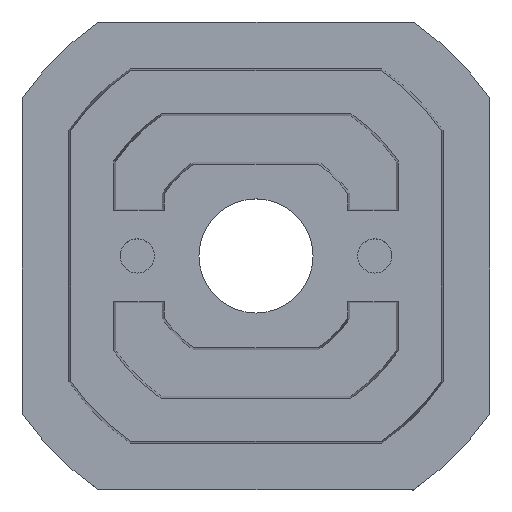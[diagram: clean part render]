
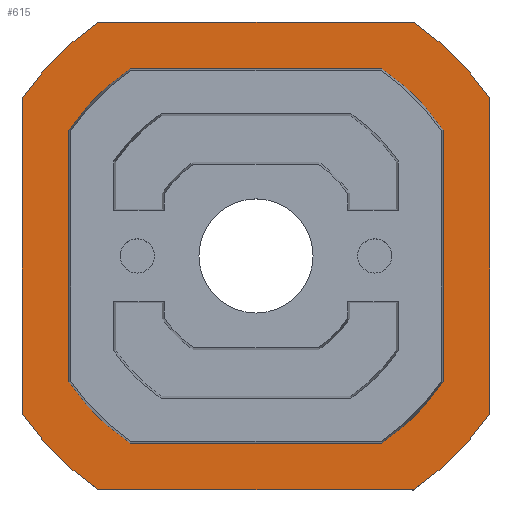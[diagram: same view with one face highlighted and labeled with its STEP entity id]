
A CAD part, top view. The second image highlights one B-rep face of the part: STEP entity #615.
In plain terms, the highlighted planar face has unit normal (0, 0, 1).
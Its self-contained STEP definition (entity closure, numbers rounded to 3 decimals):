
#14 = DIRECTION ( 'NONE',  ( 0., 0., -1. ) ) ;
#15 = LINE ( 'NONE', #1674, #1205 ) ;
#18 = AXIS2_PLACEMENT_3D ( 'NONE', #959, #804, #430 ) ;
#39 = DIRECTION ( 'NONE',  ( 0., 1., 0. ) ) ;
#96 = DIRECTION ( 'NONE',  ( 1., 0., 0. ) ) ;
#117 = LINE ( 'NONE', #417, #1553 ) ;
#156 = AXIS2_PLACEMENT_3D ( 'NONE', #1339, #1011, #2008 ) ;
#175 = CARTESIAN_POINT ( 'NONE',  ( 60.5, 29.5, 10.005 ) ) ;
#183 = EDGE_CURVE ( 'NONE', #1720, #1908, #621, .T. ) ;
#191 = VERTEX_POINT ( 'NONE', #1174 ) ;
#276 = AXIS2_PLACEMENT_3D ( 'NONE', #458, #1959, #96 ) ;
#289 = CARTESIAN_POINT ( 'NONE',  ( 70.749, 22.61, 10.005 ) ) ;
#296 = ORIENTED_EDGE ( 'NONE', *, *, #1250, .T. ) ;
#301 = CIRCLE ( 'NONE', #1815, 9.88 ) ;
#303 = CARTESIAN_POINT ( 'NONE',  ( 60.5, 37.7, 10.005 ) ) ;
#317 = ORIENTED_EDGE ( 'NONE', *, *, #183, .T. ) ;
#324 = VERTEX_POINT ( 'NONE', #1135 ) ;
#332 = LINE ( 'NONE', #1550, #1512 ) ;
#402 = CIRCLE ( 'NONE', #1325, 12.35 ) ;
#417 = CARTESIAN_POINT ( 'NONE',  ( 67.39, 39.749, 10.005 ) ) ;
#430 = DIRECTION ( 'NONE',  ( 1., 0., 0. ) ) ;
#432 = CARTESIAN_POINT ( 'NONE',  ( 60.5, 29.5, 10.005 ) ) ;
#441 = EDGE_CURVE ( 'NONE', #1468, #191, #801, .T. ) ;
#452 = CARTESIAN_POINT ( 'NONE',  ( 54.988, 21.3, 10.005 ) ) ;
#458 = CARTESIAN_POINT ( 'NONE',  ( 60.5, 29.5, 10.005 ) ) ;
#465 = CARTESIAN_POINT ( 'NONE',  ( 60.5, 29.5, 10.005 ) ) ;
#489 = DIRECTION ( 'NONE',  ( 0., 0., -1. ) ) ;
#547 = DIRECTION ( 'NONE',  ( 0., 0., 1. ) ) ;
#548 = CARTESIAN_POINT ( 'NONE',  ( 53.61, 39.749, 10.005 ) ) ;
#550 = VERTEX_POINT ( 'NONE', #1916 ) ;
#556 = VERTEX_POINT ( 'NONE', #1932 ) ;
#567 = ORIENTED_EDGE ( 'NONE', *, *, #651, .T. ) ;
#578 = FACE_BOUND ( 'NONE', #1643, .T. ) ;
#608 = DIRECTION ( 'NONE',  ( 0., 1., 0. ) ) ;
#615 = ADVANCED_FACE ( 'NONE', ( #702, #578 ), #1882, .T. ) ;
#621 = CIRCLE ( 'NONE', #1301, 12.35 ) ;
#625 = DIRECTION ( 'NONE',  ( 1., 0., 0. ) ) ;
#627 = CARTESIAN_POINT ( 'NONE',  ( 60.5, 21.3, 10.005 ) ) ;
#630 = VECTOR ( 'NONE', #1982, 1000. ) ;
#634 = CARTESIAN_POINT ( 'NONE',  ( 52.3, 23.988, 10.005 ) ) ;
#635 = CARTESIAN_POINT ( 'NONE',  ( 60.5, 29.5, 10.005 ) ) ;
#651 = EDGE_CURVE ( 'NONE', #1211, #1888, #117, .T. ) ;
#680 = EDGE_CURVE ( 'NONE', #1070, #1211, #1591, .T. ) ;
#691 = CARTESIAN_POINT ( 'NONE',  ( 50.251, 36.39, 10.005 ) ) ;
#696 = ORIENTED_EDGE ( 'NONE', *, *, #1539, .T. ) ;
#699 = ORIENTED_EDGE ( 'NONE', *, *, #680, .T. ) ;
#702 = FACE_OUTER_BOUND ( 'NONE', #1765, .T. ) ;
#708 = AXIS2_PLACEMENT_3D ( 'NONE', #635, #489, #1195 ) ;
#719 = CARTESIAN_POINT ( 'NONE',  ( 50.251, 36.39, 10.005 ) ) ;
#758 = VECTOR ( 'NONE', #608, 1000. ) ;
#801 = CIRCLE ( 'NONE', #708, 9.88 ) ;
#804 = DIRECTION ( 'NONE',  ( 0., 0., 1. ) ) ;
#806 = CARTESIAN_POINT ( 'NONE',  ( 68.7, 23.988, 10.005 ) ) ;
#834 = ORIENTED_EDGE ( 'NONE', *, *, #2109, .T. ) ;
#858 = ORIENTED_EDGE ( 'NONE', *, *, #888, .T. ) ;
#870 = CARTESIAN_POINT ( 'NONE',  ( 70.749, 36.39, 10.005 ) ) ;
#877 = ORIENTED_EDGE ( 'NONE', *, *, #1941, .T. ) ;
#888 = EDGE_CURVE ( 'NONE', #550, #1720, #2018, .T. ) ;
#903 = LINE ( 'NONE', #719, #1696 ) ;
#908 = VERTEX_POINT ( 'NONE', #691 ) ;
#932 = DIRECTION ( 'NONE',  ( -1., 0., 0. ) ) ;
#959 = CARTESIAN_POINT ( 'NONE',  ( 60.5, 29.5, 10.005 ) ) ;
#980 = LINE ( 'NONE', #627, #630 ) ;
#990 = EDGE_CURVE ( 'NONE', #908, #1044, #903, .T. ) ;
#995 = ORIENTED_EDGE ( 'NONE', *, *, #2007, .T. ) ;
#1011 = DIRECTION ( 'NONE',  ( 0., 0., -1. ) ) ;
#1030 = DIRECTION ( 'NONE',  ( 0., -1., 0. ) ) ;
#1044 = VERTEX_POINT ( 'NONE', #1386 ) ;
#1070 = VERTEX_POINT ( 'NONE', #870 ) ;
#1083 = VERTEX_POINT ( 'NONE', #1829 ) ;
#1117 = CIRCLE ( 'NONE', #18, 12.35 ) ;
#1125 = DIRECTION ( 'NONE',  ( -1., 0., 0. ) ) ;
#1135 = CARTESIAN_POINT ( 'NONE',  ( 68.7, 35.012, 10.005 ) ) ;
#1151 = LINE ( 'NONE', #303, #1739 ) ;
#1158 = CARTESIAN_POINT ( 'NONE',  ( 53.61, 19.251, 10.005 ) ) ;
#1164 = ORIENTED_EDGE ( 'NONE', *, *, #990, .T. ) ;
#1174 = CARTESIAN_POINT ( 'NONE',  ( 54.988, 37.7, 10.005 ) ) ;
#1188 = ORIENTED_EDGE ( 'NONE', *, *, #441, .T. ) ;
#1195 = DIRECTION ( 'NONE',  ( -1., 0., 0. ) ) ;
#1205 = VECTOR ( 'NONE', #39, 1000. ) ;
#1207 = CARTESIAN_POINT ( 'NONE',  ( 67.39, 19.251, 10.005 ) ) ;
#1211 = VERTEX_POINT ( 'NONE', #1957 ) ;
#1250 = EDGE_CURVE ( 'NONE', #324, #1498, #332, .T. ) ;
#1251 = ORIENTED_EDGE ( 'NONE', *, *, #1975, .T. ) ;
#1255 = CARTESIAN_POINT ( 'NONE',  ( 70.749, 22.61, 10.005 ) ) ;
#1259 = ORIENTED_EDGE ( 'NONE', *, *, #1666, .T. ) ;
#1275 = VECTOR ( 'NONE', #1834, 1000. ) ;
#1301 = AXIS2_PLACEMENT_3D ( 'NONE', #2061, #1567, #1372 ) ;
#1325 = AXIS2_PLACEMENT_3D ( 'NONE', #465, #2168, #625 ) ;
#1339 = CARTESIAN_POINT ( 'NONE',  ( 60.5, 29.5, 10.005 ) ) ;
#1372 = DIRECTION ( 'NONE',  ( 1., 0., 0. ) ) ;
#1386 = CARTESIAN_POINT ( 'NONE',  ( 50.251, 22.61, 10.005 ) ) ;
#1416 = DIRECTION ( 'NONE',  ( 1., 0., 0. ) ) ;
#1436 = ORIENTED_EDGE ( 'NONE', *, *, #1627, .T. ) ;
#1456 = LINE ( 'NONE', #289, #758 ) ;
#1468 = VERTEX_POINT ( 'NONE', #1754 ) ;
#1498 = VERTEX_POINT ( 'NONE', #806 ) ;
#1507 = EDGE_CURVE ( 'NONE', #191, #556, #1151, .T. ) ;
#1509 = VERTEX_POINT ( 'NONE', #452 ) ;
#1512 = VECTOR ( 'NONE', #2071, 1000. ) ;
#1520 = VERTEX_POINT ( 'NONE', #634 ) ;
#1534 = DIRECTION ( 'NONE',  ( -1., 0., 0. ) ) ;
#1539 = EDGE_CURVE ( 'NONE', #1083, #1509, #980, .T. ) ;
#1550 = CARTESIAN_POINT ( 'NONE',  ( 68.7, 29.5, 10.005 ) ) ;
#1553 = VECTOR ( 'NONE', #932, 1000. ) ;
#1567 = DIRECTION ( 'NONE',  ( 0., 0., 1. ) ) ;
#1591 = CIRCLE ( 'NONE', #276, 12.35 ) ;
#1611 = ORIENTED_EDGE ( 'NONE', *, *, #1507, .T. ) ;
#1627 = EDGE_CURVE ( 'NONE', #1509, #1520, #2059, .T. ) ;
#1643 = EDGE_LOOP ( 'NONE', ( #296, #834, #696, #1436, #1259, #1188, #1611, #1964 ) ) ;
#1666 = EDGE_CURVE ( 'NONE', #1520, #1468, #15, .T. ) ;
#1674 = CARTESIAN_POINT ( 'NONE',  ( 52.3, 29.5, 10.005 ) ) ;
#1696 = VECTOR ( 'NONE', #1030, 1000. ) ;
#1720 = VERTEX_POINT ( 'NONE', #1207 ) ;
#1739 = VECTOR ( 'NONE', #2170, 1000. ) ;
#1754 = CARTESIAN_POINT ( 'NONE',  ( 52.3, 35.012, 10.005 ) ) ;
#1765 = EDGE_LOOP ( 'NONE', ( #699, #567, #995, #1164, #877, #858, #317, #1251 ) ) ;
#1776 = AXIS2_PLACEMENT_3D ( 'NONE', #432, #1971, #1125 ) ;
#1815 = AXIS2_PLACEMENT_3D ( 'NONE', #175, #14, #1534 ) ;
#1829 = CARTESIAN_POINT ( 'NONE',  ( 66.012, 21.3, 10.005 ) ) ;
#1834 = DIRECTION ( 'NONE',  ( 1., 0., 0. ) ) ;
#1882 = PLANE ( 'NONE',  #1944 ) ;
#1888 = VERTEX_POINT ( 'NONE', #548 ) ;
#1890 = CIRCLE ( 'NONE', #156, 9.88 ) ;
#1908 = VERTEX_POINT ( 'NONE', #1255 ) ;
#1916 = CARTESIAN_POINT ( 'NONE',  ( 53.61, 19.251, 10.005 ) ) ;
#1932 = CARTESIAN_POINT ( 'NONE',  ( 66.012, 37.7, 10.005 ) ) ;
#1941 = EDGE_CURVE ( 'NONE', #1044, #550, #402, .T. ) ;
#1944 = AXIS2_PLACEMENT_3D ( 'NONE', #2080, #547, #1416 ) ;
#1957 = CARTESIAN_POINT ( 'NONE',  ( 67.39, 39.749, 10.005 ) ) ;
#1959 = DIRECTION ( 'NONE',  ( 0., 0., 1. ) ) ;
#1964 = ORIENTED_EDGE ( 'NONE', *, *, #2084, .T. ) ;
#1971 = DIRECTION ( 'NONE',  ( 0., 0., -1. ) ) ;
#1975 = EDGE_CURVE ( 'NONE', #1908, #1070, #1456, .T. ) ;
#1982 = DIRECTION ( 'NONE',  ( -1., 0., 0. ) ) ;
#2007 = EDGE_CURVE ( 'NONE', #1888, #908, #1117, .T. ) ;
#2008 = DIRECTION ( 'NONE',  ( -1., 0., 0. ) ) ;
#2018 = LINE ( 'NONE', #1158, #1275 ) ;
#2059 = CIRCLE ( 'NONE', #1776, 9.88 ) ;
#2061 = CARTESIAN_POINT ( 'NONE',  ( 60.5, 29.5, 10.005 ) ) ;
#2071 = DIRECTION ( 'NONE',  ( 0., -1., 0. ) ) ;
#2080 = CARTESIAN_POINT ( 'NONE',  ( 60.5, 29.5, 10.005 ) ) ;
#2084 = EDGE_CURVE ( 'NONE', #556, #324, #1890, .T. ) ;
#2109 = EDGE_CURVE ( 'NONE', #1498, #1083, #301, .T. ) ;
#2168 = DIRECTION ( 'NONE',  ( 0., 0., 1. ) ) ;
#2170 = DIRECTION ( 'NONE',  ( 1., 0., 0. ) ) ;
